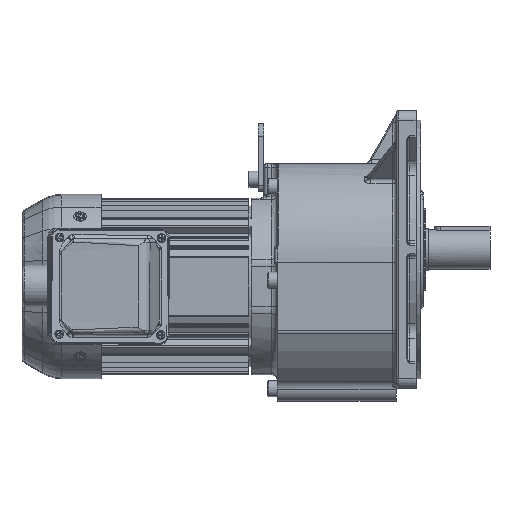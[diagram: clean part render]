
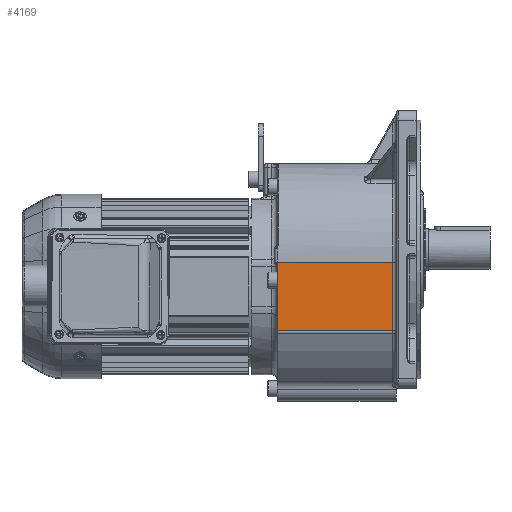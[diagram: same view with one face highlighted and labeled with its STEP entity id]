
A CAD part, front view. The second image highlights one B-rep face of the part: STEP entity #4169.
In plain terms, the highlighted planar face has unit normal (0, -1, 0).
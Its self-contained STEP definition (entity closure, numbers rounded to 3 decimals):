
#4169 = ADVANCED_FACE( '', ( #9541 ), #9542, .F. );
#9541 = FACE_OUTER_BOUND( '', #23528, .T. );
#9542 = PLANE( '', #23529 );
#23528 = EDGE_LOOP( '', ( #41574, #41575, #41576, #41577, #41578 ) );
#23529 = AXIS2_PLACEMENT_3D( '', #41579, #41580, #41581 );
#41574 = ORIENTED_EDGE( '', *, *, #54992, .T. );
#41575 = ORIENTED_EDGE( '', *, *, #54734, .T. );
#41576 = ORIENTED_EDGE( '', *, *, #54993, .F. );
#41577 = ORIENTED_EDGE( '', *, *, #54994, .T. );
#41578 = ORIENTED_EDGE( '', *, *, #54995, .F. );
#41579 = CARTESIAN_POINT( '', ( -42.731, -88.011, 2.267 ) );
#41580 = DIRECTION( '', ( 0., 1., 0. ) );
#41581 = DIRECTION( '', ( 0., 0., -1. ) );
#54734 = EDGE_CURVE( '', #61938, #64118, #64120, .T. );
#54992 = EDGE_CURVE( '', #64464, #61938, #64465, .T. );
#54993 = EDGE_CURVE( '', #64466, #64118, #64467, .T. );
#54994 = EDGE_CURVE( '', #64466, #64468, #64469, .F. );
#54995 = EDGE_CURVE( '', #64464, #64468, #64470, .T. );
#61938 = VERTEX_POINT( '', #77035 );
#64118 = VERTEX_POINT( '', #81955 );
#64120 = LINE( '', #81957, #81958 );
#64464 = VERTEX_POINT( '', #82547 );
#64465 = LINE( '', #82548, #82549 );
#64466 = VERTEX_POINT( '', #82550 );
#64467 = LINE( '', #82551, #82552 );
#64468 = VERTEX_POINT( '', #82553 );
#64469 = LINE( '', #82554, #82555 );
#64470 = LINE( '', #82556, #82557 );
#77035 = CARTESIAN_POINT( '', ( 39.069, -88.011, -53.486 ) );
#81955 = CARTESIAN_POINT( '', ( 39.069, -88.011, 2.267 ) );
#81957 = CARTESIAN_POINT( '', ( 39.069, -88.011, -53.486 ) );
#81958 = VECTOR( '', #93377, 1000. );
#82547 = CARTESIAN_POINT( '', ( -54.431, -88.011, -53.486 ) );
#82548 = CARTESIAN_POINT( '', ( -42.731, -88.011, -53.486 ) );
#82549 = VECTOR( '', #93728, 1000. );
#82550 = CARTESIAN_POINT( '', ( -54.431, -88.011, 2.267 ) );
#82551 = CARTESIAN_POINT( '', ( -42.731, -88.011, 2.267 ) );
#82552 = VECTOR( '', #93729, 1000. );
#82553 = CARTESIAN_POINT( '', ( -54.431, -88.011, -1.328 ) );
#82554 = CARTESIAN_POINT( '', ( -54.431, -88.011, 1.5 ) );
#82555 = VECTOR( '', #93730, 1000. );
#82556 = CARTESIAN_POINT( '', ( -54.431, -88.011, -53.486 ) );
#82557 = VECTOR( '', #93731, 1000. );
#93377 = DIRECTION( '', ( 0., 0., 1. ) );
#93728 = DIRECTION( '', ( 1., 0., 0. ) );
#93729 = DIRECTION( '', ( 1., 0., 0. ) );
#93730 = DIRECTION( '', ( 0., 0., 1. ) );
#93731 = DIRECTION( '', ( 0., 0., 1. ) );
